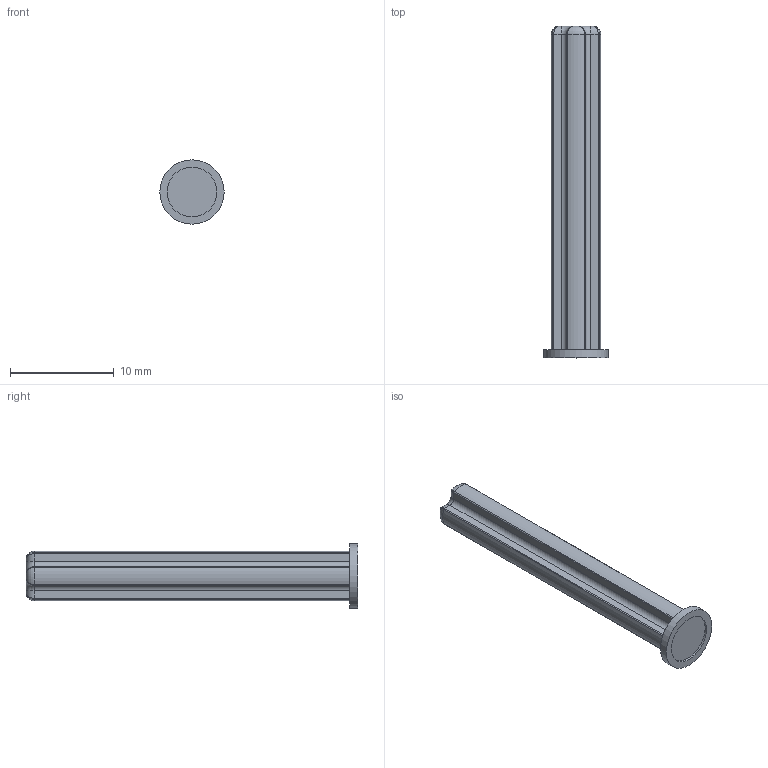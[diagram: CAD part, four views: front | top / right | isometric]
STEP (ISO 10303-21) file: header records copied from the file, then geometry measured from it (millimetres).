
FILE_DESCRIPTION(/* description */ ('Unknown'),/* implementation_level */ '2;1');
FILE_NAME(/* name */ 'Gray_4560177_JCA',/* time_stamp */ '2025-07-21T23:59:57+02:00',/* author */ ('Unknown'),/* organization */ ('Unknown'),/* preprocessor_version */ 'ST-DEVELOPER v19.4',/* originating_system */ 'Solid Edge',/* authorisation */ 'Unknown');
FILE_SCHEMA (('AUTOMOTIVE_DESIGN {1 0 10303 214 3 1 1}'));
Length unit declared in the file: millimetre
Products named in the file (1): Gray_4560177_JCA
Bounding box: 6.2 x 32 x 6.2 mm (x, y, z)
Volume: 450 mm3; surface area: 602.7 mm2
Topology: 1 solids, 1 shells, 54 faces, 126 edges, 68 vertices
Faces by surface type: cylinder 26, plane 12, torus 8, bspline 8
Full cylindrical faces by diameter (mm): 4.8 x1, 6.2 x1
Entity records: 1590 total; most frequent: CARTESIAN_POINT 415, DIRECTION 246, ORIENTED_EDGE 232, EDGE_CURVE 116, AXIS2_PLACEMENT_3D 99, VERTEX_POINT 68, EDGE_LOOP 58, FACE_BOUND 58
